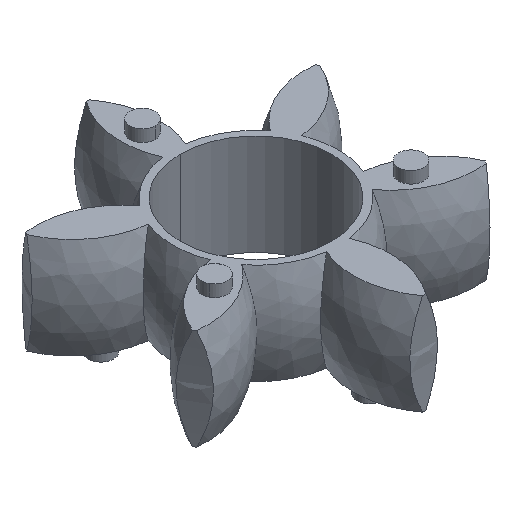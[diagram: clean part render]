
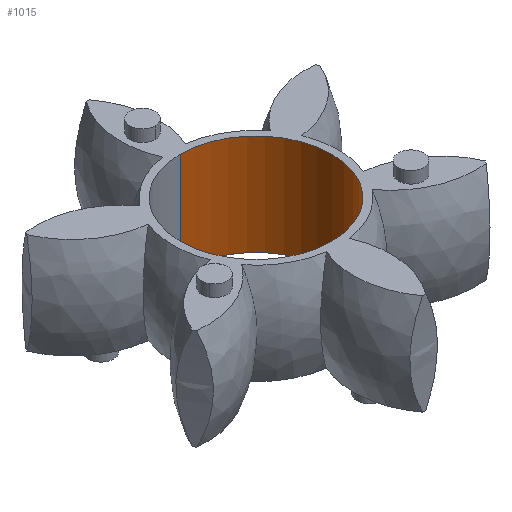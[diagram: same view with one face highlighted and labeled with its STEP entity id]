
A CAD part, isometric view. The second image highlights one B-rep face of the part: STEP entity #1015.
In plain terms, the highlighted cylindrical face has radius 9 mm (diameter 18 mm), a partial arc.
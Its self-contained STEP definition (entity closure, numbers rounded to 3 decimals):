
#27=CARTESIAN_POINT('',(0.,0.,-6.));
#28=DIRECTION('',(0.,0.,-1.));
#29=DIRECTION('',(0.,1.,0.));
#30=AXIS2_PLACEMENT_3D('',#27,#28,#29);
#204=DIRECTION('',(0.,0.,-1.));
#205=VECTOR('',#204,12.);
#206=CARTESIAN_POINT('',(0.,9.,6.));
#207=LINE('',#206,#205);
#208=DIRECTION('',(0.,0.,-1.));
#209=VECTOR('',#208,12.);
#210=CARTESIAN_POINT('',(0.,-9.,6.));
#211=LINE('',#210,#209);
#217=CARTESIAN_POINT('',(0.,0.,6.));
#218=DIRECTION('',(0.,0.,-1.));
#219=DIRECTION('',(0.,1.,0.));
#220=AXIS2_PLACEMENT_3D('',#217,#218,#219);
#728=CARTESIAN_POINT('',(0.,9.,6.));
#729=CARTESIAN_POINT('',(0.,9.,-6.));
#730=VERTEX_POINT('',#728);
#731=VERTEX_POINT('',#729);
#732=CARTESIAN_POINT('',(0.,-9.,6.));
#733=CARTESIAN_POINT('',(0.,-9.,-6.));
#734=VERTEX_POINT('',#732);
#735=VERTEX_POINT('',#733);
#1003=CARTESIAN_POINT('',(0.,0.,6.6));
#1004=DIRECTION('',(0.,0.,-1.));
#1005=DIRECTION('',(0.,-1.,0.));
#1006=AXIS2_PLACEMENT_3D('',#1003,#1004,#1005);
#1007=CYLINDRICAL_SURFACE('',#1006,9.);
#1008=ORIENTED_EDGE('',*,*,#993,.F.);
#1010=ORIENTED_EDGE('',*,*,#1009,.T.);
#1011=ORIENTED_EDGE('',*,*,#996,.T.);
#1012=ORIENTED_EDGE('',*,*,#895,.F.);
#1013=EDGE_LOOP('',(#1008,#1010,#1011,#1012));
#1014=FACE_OUTER_BOUND('',#1013,.F.);
#1015=ADVANCED_FACE('',(#1014),#1007,.F.);
#31=CIRCLE('',#30,9.);
#221=CIRCLE('',#220,9.);
#895=EDGE_CURVE('',#731,#735,#31,.T.);
#993=EDGE_CURVE('',#730,#731,#207,.T.);
#996=EDGE_CURVE('',#734,#735,#211,.T.);
#1009=EDGE_CURVE('',#730,#734,#221,.T.);
